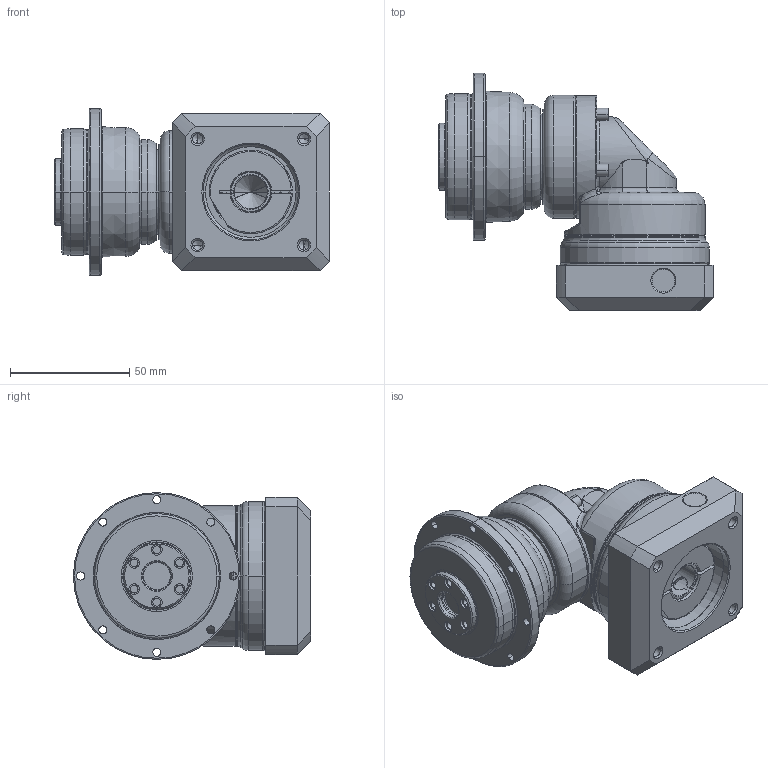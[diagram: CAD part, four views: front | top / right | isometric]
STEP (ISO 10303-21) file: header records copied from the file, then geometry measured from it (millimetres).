
FILE_DESCRIPTION((''),'2;1');
FILE_NAME('PDR053_1ST_14-P0411300101_ASM','2016-06-04T',('d01943'),(''),'PRO/ENGINEER BY PARAMETRIC TECHNOLOGY CORPORATION, 2008410','PRO/ENGINEER BY PARAMETRIC TECHNOLOGY CORPORATION, 2008410','');
FILE_SCHEMA(('CONFIG_CONTROL_DESIGN'));
Length unit declared in the file: millimetre
Products named in the file (10): P1355100001; P0367100001; P0274100001; P1349100001; P1017100001; P1350100201; P0411300101; P0503300005; P0713100201; PDR053_1ST_14-P0411300101_ASM
Assembly tree (9 placements, depth 2):
  PDR053_1ST_14-P0411300101_ASM
    P1355100001
    P0367100001
    P0274100001
    P1349100001
    P1017100001
    P1350100201
    P0411300101
    P0503300005
    P0713100201
Bounding box: 115.3 x 99.5 x 70 mm (x, y, z)
Volume: 274622.5 mm3; surface area: 75416.3 mm2
Topology: 9 solids, 9 shells, 504 faces, 1153 edges, 681 vertices
Faces by surface type: cylinder 170, cone 138, plane 83, torus 82, bspline 31
Entity records: 16958 total; most frequent: CARTESIAN_POINT 5405, DIRECTION 2544, ORIENTED_EDGE 2250, EDGE_CURVE 1125, AXIS2_PLACEMENT_3D 1088, VERTEX_POINT 681, CIRCLE 596, EDGE_LOOP 594
